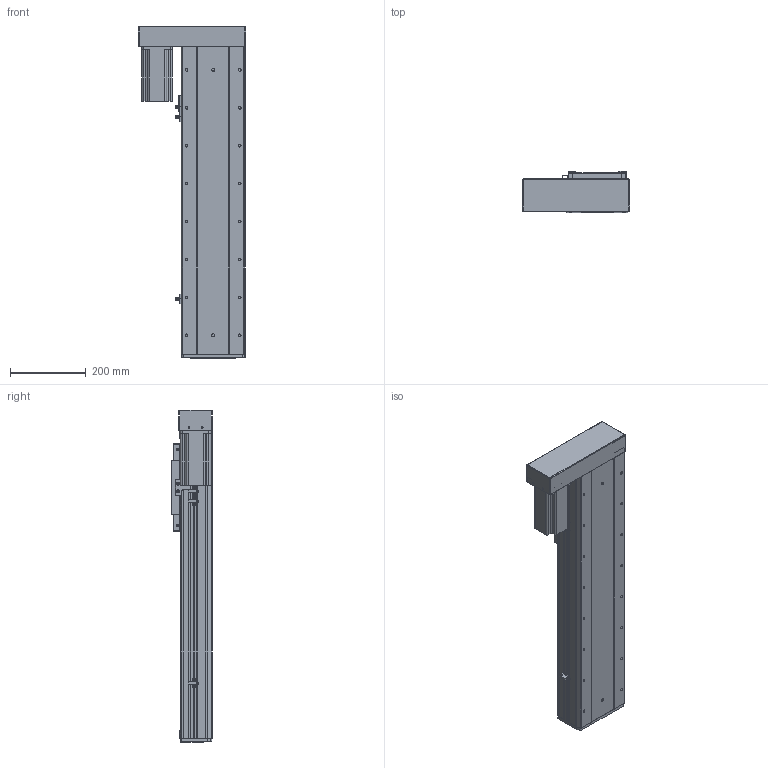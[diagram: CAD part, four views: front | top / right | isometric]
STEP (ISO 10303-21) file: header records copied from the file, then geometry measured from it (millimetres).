
FILE_DESCRIPTION (( 'STEP AP203' ), '1' );
FILE_NAME ('RY170F-L2020-300-LK.SLDASM_500.step', '2021-03-02T09:00:29', ( '盈信电脑' ), ( '东莞市道滘镇水果街19号' ), 'SwSTEP 2.0', 'SolidWorks 2012', '' );
FILE_SCHEMA (( 'CONFIG_CONTROL_DESIGN' ));
Products named in the file (20): RY170F-L2020-300-LK.SLDASM_500; RY170F-蛌殏萇儂假蚾啣; RY170F酘衵殏萇儂欶; 怢湛750W萇儂ㄗ80遺ㄘ; RY170F-酘衵殏萇儂釱; RY170F-詩湍揤踡輸; RY170F-揤踡謫假蚾粣; 侐源滅袉蝶; 滅袉蝶18-24; RY170F-綴裔啣; 覜茼ん672; RY170F俋离覜茼え; RY170F-丝杆铝滑块连接板; RY170F-300眻蟀倰第奻裔啣-LK_500; 滅袉蝶18-10; RY100F-詩湍揤踡謫; RY170F-300眻蟀祥凄詩湍-LK_500; RY170F-滅鳥奻裔; RY170F-300眻蟀倰第菁釱-LK_500; RY170F-佪裝臏賑輸20蹟譫
Assembly tree (24 placements, depth 2):
  RY170F-L2020-300-LK.SLDASM_500
    RY170F-滅鳥奻裔
    RY170F-300眻蟀祥凄詩湍-LK_500
    RY170F-300眻蟀倰第菁釱-LK_500
    RY170F-佪裝臏賑輸20蹟譫
    RY170F-丝杆铝滑块连接板
    RY170F-300眻蟀倰第奻裔啣-LK_500  x2
    滅袉蝶18-10
    RY100F-詩湍揤踡謫
    RY170F-綴裔啣
    覜茼ん672  x3
    RY170F俋离覜茼え
    RY170F-揤踡謫假蚾粣
    RY170F-詩湍揤踡輸  x2
    滅袉蝶18-24
    侐源滅袉蝶  x2
    RY170F-酘衵殏萇儂釱
    RY170F-蛌殏萇儂假蚾啣
    怢湛750W萇儂ㄗ80遺ㄘ
    RY170F酘衵殏萇儂欶
Bounding box: 283 x 107 x 876 mm (x, y, z)
Volume: 5840341 mm3; surface area: 1835620.7 mm2
Topology: 24 solids, 24 shells, 1825 faces, 5062 edges, 3216 vertices
Faces by surface type: cylinder 861, plane 760, cone 196, bspline 8
Entity records: 52335 total; most frequent: CARTESIAN_POINT 10580, DIRECTION 8459, ORIENTED_EDGE 8080, EDGE_CURVE 4040, AXIS2_PLACEMENT_3D 3045, VERTEX_POINT 2636, LINE 2369, VECTOR 2369
